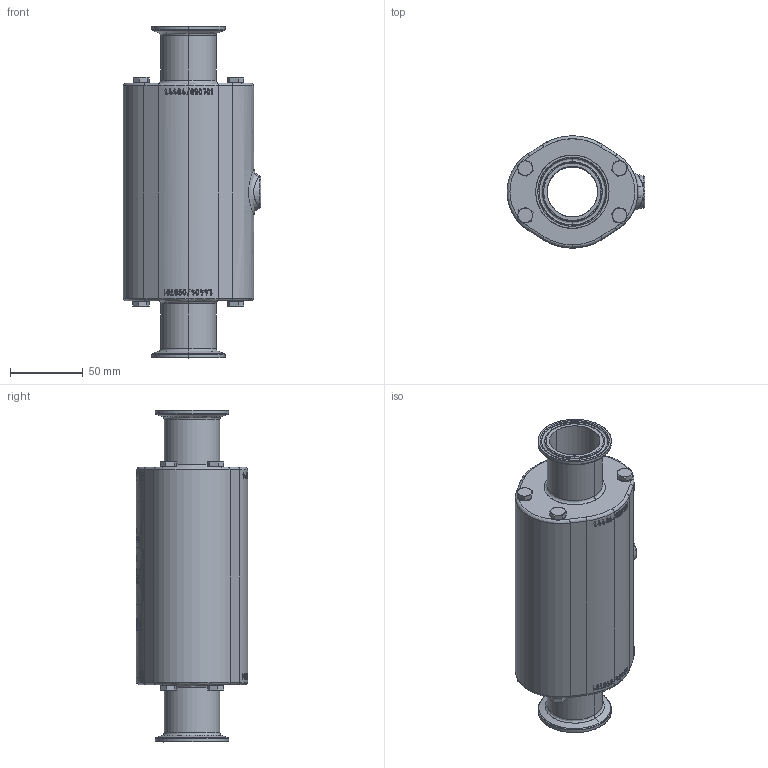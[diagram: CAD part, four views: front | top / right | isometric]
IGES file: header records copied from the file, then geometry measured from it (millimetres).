
Start section: SolidWorks IGES file using analytic representation for surfaces
Global section: file name: L:\SolidWorks_daten\Zeichnungen\AKO\Ventile\Fuer Extern\Traceparts\VMC\DN40\VMC40xx50TA50_EV.IGS; native system: SolidWorks 2015; preprocessor: SolidWorks 2015; author: j.greif; date: 150220.125301; units: millimetre
Bounding box: 95 x 77 x 228.6 mm (x, y, z)
Surface area: 89526 mm2 (no closed solid volume)
Topology: 0 solids, 0 shells, 1949 faces, 20900 edges, 20900 vertices
Faces by surface type: bspline 1672, revolution 277
